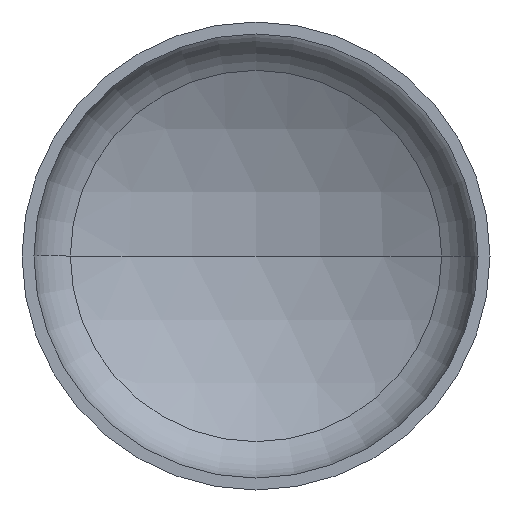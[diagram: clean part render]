
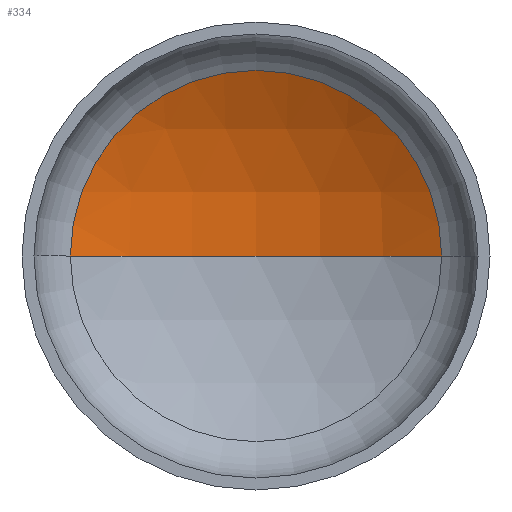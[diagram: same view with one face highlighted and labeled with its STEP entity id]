
A CAD part, front view. The second image highlights one B-rep face of the part: STEP entity #334.
In plain terms, the highlighted spherical face has radius 1760 mm.
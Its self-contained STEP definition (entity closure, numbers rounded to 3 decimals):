
#1 = AXIS2_PLACEMENT_3D ( 'NONE', #364, #226, #268 ) ;
#4 = EDGE_LOOP ( 'NONE', ( #199, #131, #136 ) ) ;
#6 = VERTEX_POINT ( 'NONE', #261 ) ;
#9 = AXIS2_PLACEMENT_3D ( 'NONE', #104, #194, #138 ) ;
#26 = AXIS2_PLACEMENT_3D ( 'NONE', #112, #113, #135 ) ;
#42 = CIRCLE ( 'NONE', #300, 1760. ) ;
#43 = VERTEX_POINT ( 'NONE', #274 ) ;
#64 = SPHERICAL_SURFACE ( 'NONE', #9, 1760. ) ;
#104 = CARTESIAN_POINT ( 'NONE',  ( 0., -1113.201, 0. ) ) ;
#112 = CARTESIAN_POINT ( 'NONE',  ( 0., 415.273, 0. ) ) ;
#113 = DIRECTION ( 'NONE',  ( 0., -1., 0. ) ) ;
#121 = CARTESIAN_POINT ( 'NONE',  ( 0., -1113.201, 0. ) ) ;
#131 = ORIENTED_EDGE ( 'NONE', *, *, #368, .T. ) ;
#135 = DIRECTION ( 'NONE',  ( 1., 0., 0. ) ) ;
#136 = ORIENTED_EDGE ( 'NONE', *, *, #318, .T. ) ;
#138 = DIRECTION ( 'NONE',  ( -1., 0., 0. ) ) ;
#194 = DIRECTION ( 'NONE',  ( 0., 0., -1. ) ) ;
#199 = ORIENTED_EDGE ( 'NONE', *, *, #360, .F. ) ;
#226 = DIRECTION ( 'NONE',  ( 0., 0., 1. ) ) ;
#236 = VERTEX_POINT ( 'NONE', #264 ) ;
#245 = DIRECTION ( 'NONE',  ( 0., 0., -1. ) ) ;
#247 = DIRECTION ( 'NONE',  ( -1., 0., 0. ) ) ;
#261 = CARTESIAN_POINT ( 'NONE',  ( 872.563, 415.273, 0. ) ) ;
#264 = CARTESIAN_POINT ( 'NONE',  ( -872.563, 415.273, 0. ) ) ;
#268 = DIRECTION ( 'NONE',  ( 1., 0., 0. ) ) ;
#274 = CARTESIAN_POINT ( 'NONE',  ( 0., 646.799, 0. ) ) ;
#300 = AXIS2_PLACEMENT_3D ( 'NONE', #121, #245, #247 ) ;
#312 = FACE_OUTER_BOUND ( 'NONE', #4, .T. ) ;
#318 = EDGE_CURVE ( 'NONE', #6, #236, #319, .T. ) ;
#319 = CIRCLE ( 'NONE', #26, 872.563 ) ;
#334 = ADVANCED_FACE ( 'NONE', ( #312 ), #64, .F. ) ;
#360 = EDGE_CURVE ( 'NONE', #43, #236, #367, .T. ) ;
#364 = CARTESIAN_POINT ( 'NONE',  ( 0., -1113.201, 0. ) ) ;
#367 = CIRCLE ( 'NONE', #1, 1760. ) ;
#368 = EDGE_CURVE ( 'NONE', #43, #6, #42, .T. ) ;
